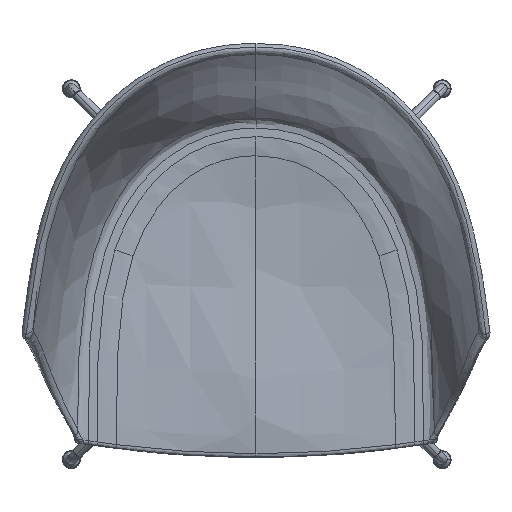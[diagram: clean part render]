
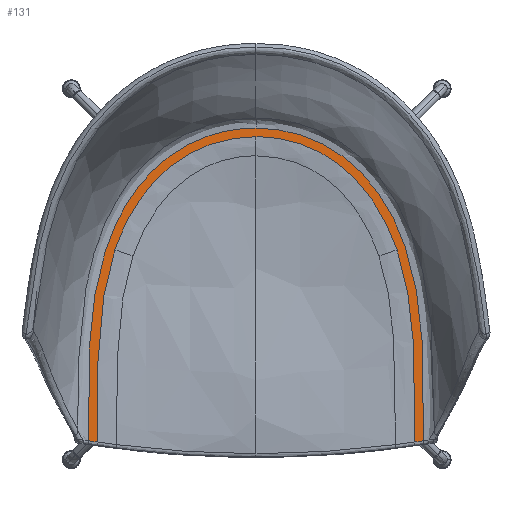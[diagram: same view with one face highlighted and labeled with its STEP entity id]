
A CAD part, top view. The second image highlights one B-rep face of the part: STEP entity #131.
In plain terms, the highlighted planar face has unit normal (0, 0.021, 1).
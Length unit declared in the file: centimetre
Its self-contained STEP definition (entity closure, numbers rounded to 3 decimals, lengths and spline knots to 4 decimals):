
#131=ADVANCED_FACE($,(#503),#4698,.T.);
#503=FACE_OUTER_BOUND($,#875,.T.);
#875=EDGE_LOOP($,(#1513,#1514,#1515,#1516,#1517,#1518,#1519,#1520,#1521,
#1522));
#1513=ORIENTED_EDGE($,*,*,#3139,.T.);
#1514=ORIENTED_EDGE($,*,*,#3140,.T.);
#1515=ORIENTED_EDGE($,*,*,#3146,.F.);
#1516=ORIENTED_EDGE($,*,*,#3145,.F.);
#1517=ORIENTED_EDGE($,*,*,#3148,.F.);
#1518=ORIENTED_EDGE($,*,*,#3147,.F.);
#1519=ORIENTED_EDGE($,*,*,#3149,.F.);
#1520=ORIENTED_EDGE($,*,*,#3150,.T.);
#1521=ORIENTED_EDGE($,*,*,#3143,.T.);
#1522=ORIENTED_EDGE($,*,*,#3144,.T.);
#3139=EDGE_CURVE($,#3954,#3955,#4894,.T.);
#3140=EDGE_CURVE($,#3955,#3952,#4895,.T.);
#3143=EDGE_CURVE($,#3956,#3957,#4898,.T.);
#3144=EDGE_CURVE($,#3957,#3954,#4899,.T.);
#3145=EDGE_CURVE($,#3958,#3959,#4900,.T.);
#3146=EDGE_CURVE($,#3959,#3952,#4901,.T.);
#3147=EDGE_CURVE($,#3961,#3960,#4902,.T.);
#3148=EDGE_CURVE($,#3960,#3958,#4903,.T.);
#3149=EDGE_CURVE($,#3962,#3961,#4904,.T.);
#3150=EDGE_CURVE($,#3962,#3956,#4905,.T.);
#3952=VERTEX_POINT($,#18843);
#3954=VERTEX_POINT($,#18845);
#3955=VERTEX_POINT($,#18846);
#3956=VERTEX_POINT($,#18847);
#3957=VERTEX_POINT($,#18848);
#3958=VERTEX_POINT($,#18849);
#3959=VERTEX_POINT($,#18850);
#3960=VERTEX_POINT($,#18851);
#3961=VERTEX_POINT($,#18852);
#3962=VERTEX_POINT($,#18853);
#4698=PLANE($,#5726);
#4894=B_SPLINE_CURVE_WITH_KNOTS($,3,(#7843,#7844,#7845,#7846),.UNSPECIFIED.,
.F.,.F.,(4,4),(0.,0.1221),.UNSPECIFIED.);
#4895=B_SPLINE_CURVE_WITH_KNOTS($,3,(#7847,#7848,#7849,#7850,#7851,#7852,
#7853,#7854,#7855,#7856),.UNSPECIFIED.,.F.,.F.,(4,2,2,2,4),(0.1221,
0.3405,0.5582,0.7796,1.),
.UNSPECIFIED.);
#4898=B_SPLINE_CURVE_WITH_KNOTS($,3,(#7874,#7875,#7876,#7877,#7878,#7879),
.UNSPECIFIED.,.F.,.F.,(4,2,4),(0.,0.2465,0.4904),
.UNSPECIFIED.);
#4899=B_SPLINE_CURVE_WITH_KNOTS($,3,(#7880,#7881,#7882,#7883,#7884,#7885),
.UNSPECIFIED.,.F.,.F.,(4,2,4),(0.4904,0.7446,1.),.UNSPECIFIED.);
#4900=B_SPLINE_CURVE_WITH_KNOTS($,3,(#7886,#7887,#7888,#7889,#7890,#7891,
#7892,#7893,#7894,#7895,#7896),.UNSPECIFIED.,.F.,.F.,(4,1,1,1,1,1,1,1,4),
(0.,31.9199,63.8398,95.7596,127.6795,159.5994,
191.5193,223.4392,250.8905),.UNSPECIFIED.);
#4901=B_SPLINE_CURVE_WITH_KNOTS($,3,(#7897,#7898,#7899,#7900,#7901,#7902,
#7903),.UNSPECIFIED.,.F.,.F.,(4,1,1,1,4),(0.,0.25,0.5,0.75,1.),.UNSPECIFIED.);
#4902=B_SPLINE_CURVE_WITH_KNOTS($,3,(#7904,#7905,#7906,#7907,#7908,#7909,
#7910,#7911,#7912,#7913,#7914),.UNSPECIFIED.,.F.,.F.,(4,1,1,1,1,1,1,1,4),
(-251.7581,-220.2883,-188.8186,-157.3488,
-125.879,-94.4093,-62.9395,-31.4698,0.),
.UNSPECIFIED.);
#4903=B_SPLINE_CURVE_WITH_KNOTS($,3,(#7915,#7916,#7917,#7918,#7919,#7920,
#7921,#7922,#7923,#7924,#7925),.UNSPECIFIED.,.F.,.F.,(4,1,1,1,1,1,1,1,4),
(0.,31.4698,62.9395,94.4093,125.879,
157.3488,188.8186,220.2883,251.7581),.UNSPECIFIED.);
#4904=B_SPLINE_CURVE_WITH_KNOTS($,3,(#7926,#7927,#7928,#7929,#7930,#7931,
#7932,#7933,#7934,#7935,#7936),.UNSPECIFIED.,.F.,.F.,(4,1,1,1,1,1,1,1,4),
(-250.8905,-223.4392,-191.5193,-159.5994,
-127.6795,-95.7596,-63.8398,-31.9199,0.),
.UNSPECIFIED.);
#4905=B_SPLINE_CURVE_WITH_KNOTS($,3,(#7937,#7938,#7939,#7940),.UNSPECIFIED.,
.F.,.F.,(4,4),(-1.,0.),.UNSPECIFIED.);
#5726=AXIS2_PLACEMENT_3D($,#13958,#5794,$);
#5794=DIRECTION($,(0.,0.021,1.));
#7843=CARTESIAN_POINT($,(25.0331,43.9472,47.3513));
#7844=CARTESIAN_POINT($,(22.9199,43.9472,47.3513));
#7845=CARTESIAN_POINT($,(20.8215,43.6118,47.3584));
#7846=CARTESIAN_POINT($,(18.8198,42.9257,47.3727));
#7847=CARTESIAN_POINT($,(18.8198,42.9257,47.3727));
#7848=CARTESIAN_POINT($,(15.1588,41.671,47.399));
#7849=CARTESIAN_POINT($,(12.1128,39.3487,47.4477));
#7850=CARTESIAN_POINT($,(7.4321,33.2902,47.5746));
#7851=CARTESIAN_POINT($,(5.923,29.7434,47.6489));
#7852=CARTESIAN_POINT($,(4.0089,22.3804,47.8031));
#7853=CARTESIAN_POINT($,(3.6167,18.657,47.8811));
#7854=CARTESIAN_POINT($,(3.2526,11.0586,48.0403));
#7855=CARTESIAN_POINT($,(3.2893,7.2745,48.1195));
#7856=CARTESIAN_POINT($,(3.3675,3.4842,48.1989));
#7874=CARTESIAN_POINT($,(46.6987,3.4842,48.1989));
#7875=CARTESIAN_POINT($,(46.7861,7.7199,48.1102));
#7876=CARTESIAN_POINT($,(46.8259,11.9451,48.0217));
#7877=CARTESIAN_POINT($,(46.2932,20.3704,47.8452));
#7878=CARTESIAN_POINT($,(45.7022,24.6337,47.7559));
#7879=CARTESIAN_POINT($,(44.3265,28.6457,47.6719));
#7880=CARTESIAN_POINT($,(44.3265,28.6457,47.6719));
#7881=CARTESIAN_POINT($,(42.9055,32.7897,47.5851));
#7882=CARTESIAN_POINT($,(40.6302,36.681,47.5035));
#7883=CARTESIAN_POINT($,(33.7432,42.4459,47.3828));
#7884=CARTESIAN_POINT($,(29.524,43.9472,47.3513));
#7885=CARTESIAN_POINT($,(25.0331,43.9472,47.3513));
#7886=CARTESIAN_POINT($,(6.7775,28.1796,47.6816));
#7887=CARTESIAN_POINT($,(6.4437,27.1965,47.7022));
#7888=CARTESIAN_POINT($,(5.8778,25.1985,47.7441));
#7889=CARTESIAN_POINT($,(5.2758,22.1238,47.8085));
#7890=CARTESIAN_POINT($,(4.8715,18.9876,47.8742));
#7891=CARTESIAN_POINT($,(4.6218,15.805,47.9408));
#7892=CARTESIAN_POINT($,(4.4892,12.5899,48.0082));
#7893=CARTESIAN_POINT($,(4.4403,9.3555,48.0759));
#7894=CARTESIAN_POINT($,(4.4464,6.2645,48.1407));
#7895=CARTESIAN_POINT($,(4.4694,4.2552,48.1828));
#7896=CARTESIAN_POINT($,(4.4825,3.3271,48.2022));
#7897=CARTESIAN_POINT($,(4.4825,3.3271,48.2022));
#7898=CARTESIAN_POINT($,(4.3896,3.3405,48.2019));
#7899=CARTESIAN_POINT($,(4.2037,3.366,48.2014));
#7900=CARTESIAN_POINT($,(3.9249,3.4049,48.2006));
#7901=CARTESIAN_POINT($,(3.6462,3.4445,48.1998));
#7902=CARTESIAN_POINT($,(3.4604,3.471,48.1992));
#7903=CARTESIAN_POINT($,(3.3675,3.4842,48.1989));
#7904=CARTESIAN_POINT($,(43.2887,28.1796,47.6816));
#7905=CARTESIAN_POINT($,(42.9518,29.1718,47.6608));
#7906=CARTESIAN_POINT($,(42.172,31.1125,47.6202));
#7907=CARTESIAN_POINT($,(40.6783,33.8762,47.5623));
#7908=CARTESIAN_POINT($,(38.8329,36.4252,47.5089));
#7909=CARTESIAN_POINT($,(36.6218,38.6669,47.462));
#7910=CARTESIAN_POINT($,(34.0632,40.5043,47.4235));
#7911=CARTESIAN_POINT($,(31.215,41.8548,47.3952));
#7912=CARTESIAN_POINT($,(28.169,42.6648,47.3782));
#7913=CARTESIAN_POINT($,(26.0783,42.8365,47.3746));
#7914=CARTESIAN_POINT($,(25.0331,42.8365,47.3746));
#7915=CARTESIAN_POINT($,(25.0331,42.8365,47.3746));
#7916=CARTESIAN_POINT($,(23.9879,42.8365,47.3746));
#7917=CARTESIAN_POINT($,(21.8972,42.6648,47.3782));
#7918=CARTESIAN_POINT($,(18.8511,41.8548,47.3952));
#7919=CARTESIAN_POINT($,(16.0029,40.5043,47.4235));
#7920=CARTESIAN_POINT($,(13.4444,38.6669,47.462));
#7921=CARTESIAN_POINT($,(11.2333,36.4252,47.5089));
#7922=CARTESIAN_POINT($,(9.3879,33.8762,47.5623));
#7923=CARTESIAN_POINT($,(7.8941,31.1125,47.6202));
#7924=CARTESIAN_POINT($,(7.1144,29.1718,47.6608));
#7925=CARTESIAN_POINT($,(6.7775,28.1796,47.6816));
#7926=CARTESIAN_POINT($,(45.5837,3.3271,48.2022));
#7927=CARTESIAN_POINT($,(45.5968,4.2552,48.1828));
#7928=CARTESIAN_POINT($,(45.6198,6.2645,48.1407));
#7929=CARTESIAN_POINT($,(45.6259,9.3555,48.0759));
#7930=CARTESIAN_POINT($,(45.577,12.5899,48.0082));
#7931=CARTESIAN_POINT($,(45.4443,15.805,47.9408));
#7932=CARTESIAN_POINT($,(45.1947,18.9876,47.8742));
#7933=CARTESIAN_POINT($,(44.7903,22.1238,47.8085));
#7934=CARTESIAN_POINT($,(44.1883,25.1985,47.7441));
#7935=CARTESIAN_POINT($,(43.6224,27.1965,47.7022));
#7936=CARTESIAN_POINT($,(43.2887,28.1796,47.6816));
#7937=CARTESIAN_POINT($,(45.5837,3.3271,48.2022));
#7938=CARTESIAN_POINT($,(45.9552,3.3808,48.2011));
#7939=CARTESIAN_POINT($,(46.3271,3.4314,48.2));
#7940=CARTESIAN_POINT($,(46.6987,3.4842,48.1989));
#13958=CARTESIAN_POINT($,(-7.1101,34.0403,47.5589));
#18843=CARTESIAN_POINT($,(3.3675,3.4842,48.1989));
#18845=CARTESIAN_POINT($,(25.0331,43.9472,47.3513));
#18846=CARTESIAN_POINT($,(18.8198,42.9257,47.3727));
#18847=CARTESIAN_POINT($,(46.6987,3.4842,48.1989));
#18848=CARTESIAN_POINT($,(44.3265,28.6457,47.6719));
#18849=CARTESIAN_POINT($,(6.7775,28.1796,47.6816));
#18850=CARTESIAN_POINT($,(4.4825,3.3271,48.2022));
#18851=CARTESIAN_POINT($,(25.0331,42.8365,47.3746));
#18852=CARTESIAN_POINT($,(43.2887,28.1796,47.6816));
#18853=CARTESIAN_POINT($,(45.5837,3.3271,48.2022));
